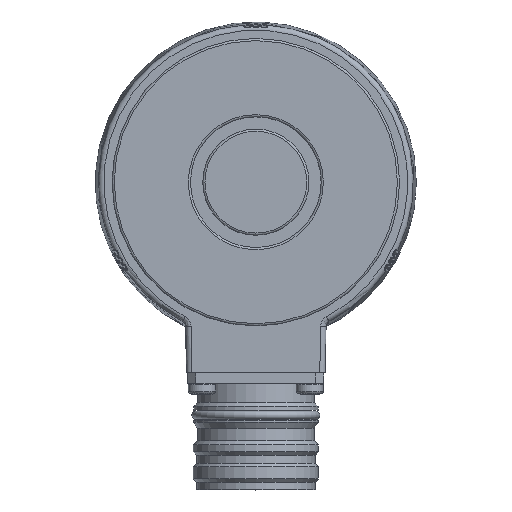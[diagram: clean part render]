
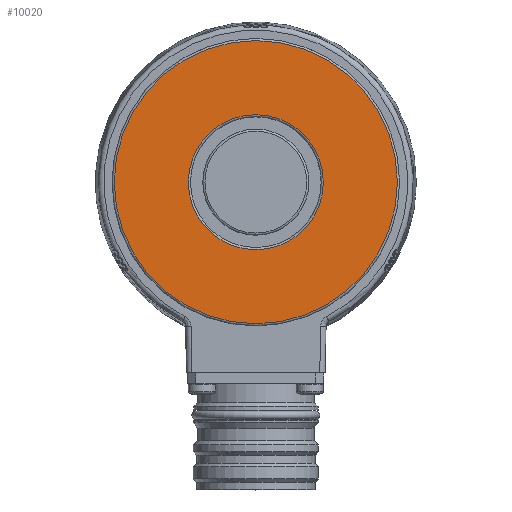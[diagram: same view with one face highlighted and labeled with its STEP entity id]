
A CAD part, top view. The second image highlights one B-rep face of the part: STEP entity #10020.
In plain terms, the highlighted planar face has unit normal (0, 0, 1).
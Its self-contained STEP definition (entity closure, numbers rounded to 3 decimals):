
#4764=ORIENTED_EDGE('',*,*,#6212,.T.);
#4765=ORIENTED_EDGE('',*,*,#6222,.F.);
#6212=EDGE_CURVE('',#7207,#7207,#7558,.T.);
#6222=EDGE_CURVE('',#7208,#7208,#7559,.T.);
#7207=VERTEX_POINT('',#26036);
#7208=VERTEX_POINT('',#26066);
#7558=CIRCLE('',#10849,26.004);
#7559=CIRCLE('',#10869,12.4);
#8363=EDGE_LOOP('',(#4764));
#8364=EDGE_LOOP('',(#4765));
#9188=FACE_BOUND('',#8363,.T.);
#9189=FACE_BOUND('',#8364,.T.);
#9394=PLANE('',#10868);
#10020=ADVANCED_FACE('',(#9188,#9189),#9394,.T.);
#10849=AXIS2_PLACEMENT_3D('',#26035,#12885,#12886);
#10868=AXIS2_PLACEMENT_3D('',#26064,#12932,#12933);
#10869=AXIS2_PLACEMENT_3D('',#26065,#12934,#12935);
#12885=DIRECTION('',(0.,0.,1.));
#12886=DIRECTION('',(1.,0.,0.));
#12932=DIRECTION('',(0.,0.,1.));
#12933=DIRECTION('',(1.,0.,0.));
#12934=DIRECTION('',(0.,0.,1.));
#12935=DIRECTION('',(1.,0.,0.));
#26035=CARTESIAN_POINT('',(0.,0.,34.5));
#26036=CARTESIAN_POINT('',(26.004,0.,34.5));
#26064=CARTESIAN_POINT('',(0.,0.,34.5));
#26065=CARTESIAN_POINT('',(0.,0.,34.5));
#26066=CARTESIAN_POINT('',(12.4,0.,34.5));
